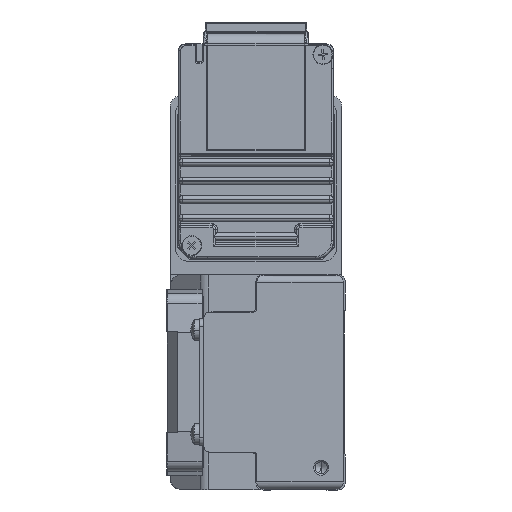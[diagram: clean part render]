
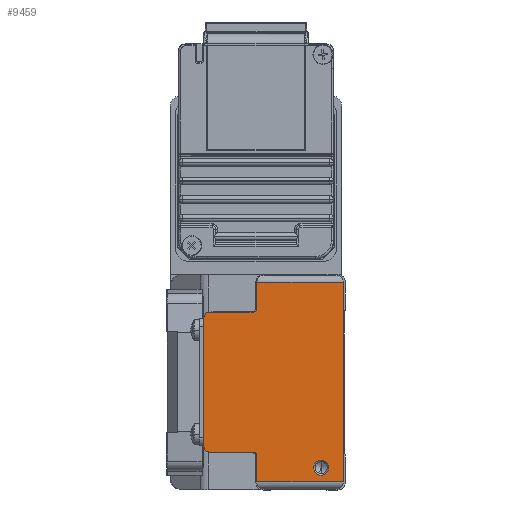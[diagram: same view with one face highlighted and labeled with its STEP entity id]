
A CAD part, left-side view. The second image highlights one B-rep face of the part: STEP entity #9459.
In plain terms, the highlighted planar face has unit normal (-1, 0, 0) as drawn and (0, 0, 1) by its records, which use the part's own axes.
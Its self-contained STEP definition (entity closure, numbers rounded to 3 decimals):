
#156 = DIRECTION ( 'NONE',  ( -1., 0., 0. ) ) ;
#285 = VECTOR ( 'NONE', #5982, 1000. ) ;
#315 = VECTOR ( 'NONE', #39219, 1000. ) ;
#721 = ORIENTED_EDGE ( 'NONE', *, *, #29878, .T. ) ;
#989 = CARTESIAN_POINT ( 'NONE',  ( -26.8, 21.8, 470. ) ) ;
#1067 = ORIENTED_EDGE ( 'NONE', *, *, #10643, .F. ) ;
#1120 = EDGE_CURVE ( 'NONE', #24827, #41792, #19138, .T. ) ;
#1781 = CARTESIAN_POINT ( 'NONE',  ( -19.8, 23.8, 470. ) ) ;
#2764 = VERTEX_POINT ( 'NONE', #3530 ) ;
#3117 = CARTESIAN_POINT ( 'NONE',  ( -18.8, 36.5, 470. ) ) ;
#3207 = CARTESIAN_POINT ( 'NONE',  ( 19.8, 23.8, 470. ) ) ;
#3292 = VERTEX_POINT ( 'NONE', #29070 ) ;
#3530 = CARTESIAN_POINT ( 'NONE',  ( -26.8, 0.5, 470. ) ) ;
#3841 = EDGE_CURVE ( 'NONE', #23293, #32912, #22736, .T. ) ;
#4641 = VECTOR ( 'NONE', #18654, 1000. ) ;
#5545 = AXIS2_PLACEMENT_3D ( 'NONE', #42350, #31761, #18430 ) ;
#5982 = DIRECTION ( 'NONE',  ( 0., -1., 0. ) ) ;
#8085 = EDGE_CURVE ( 'NONE', #28692, #19407, #33606, .T. ) ;
#9459 = ADVANCED_FACE ( 'NONE', ( #15582, #39491 ), #12164, .T. ) ;
#9664 = DIRECTION ( 'NONE',  ( -1., 0., 0. ) ) ;
#9724 = EDGE_LOOP ( 'NONE', ( #24250, #22163 ) ) ;
#10262 = AXIS2_PLACEMENT_3D ( 'NONE', #19976, #13116, #9664 ) ;
#10383 = CIRCLE ( 'NONE', #36027, 2. ) ;
#10422 = DIRECTION ( 'NONE',  ( 0., 0., 1. ) ) ;
#10458 = EDGE_CURVE ( 'NONE', #19407, #26592, #22868, .T. ) ;
#10643 = EDGE_CURVE ( 'NONE', #36455, #18519, #30904, .T. ) ;
#11117 = EDGE_CURVE ( 'NONE', #26592, #3292, #19346, .T. ) ;
#11144 = AXIS2_PLACEMENT_3D ( 'NONE', #22739, #43860, #44543 ) ;
#11635 = DIRECTION ( 'NONE',  ( 1., 0., 0. ) ) ;
#12164 = PLANE ( 'NONE',  #31389 ) ;
#13116 = DIRECTION ( 'NONE',  ( 0., 0., -1. ) ) ;
#13716 = LINE ( 'NONE', #34871, #285 ) ;
#13864 = CARTESIAN_POINT ( 'NONE',  ( 17.3, 36.5, 470. ) ) ;
#14072 = DIRECTION ( 'NONE',  ( 1., 0., 0. ) ) ;
#14160 = EDGE_CURVE ( 'NONE', #24827, #3292, #45097, .T. ) ;
#14913 = DIRECTION ( 'NONE',  ( 1., 0., 0. ) ) ;
#15052 = LINE ( 'NONE', #25821, #23329 ) ;
#15399 = DIRECTION ( 'NONE',  ( 1., 0., 0. ) ) ;
#15582 = FACE_BOUND ( 'NONE', #9724, .T. ) ;
#15610 = DIRECTION ( 'NONE',  ( 0., 0., 1. ) ) ;
#15631 = ORIENTED_EDGE ( 'NONE', *, *, #8085, .T. ) ;
#17727 = CARTESIAN_POINT ( 'NONE',  ( 18.8, 24.8, 470. ) ) ;
#18317 = DIRECTION ( 'NONE',  ( 0., 0., 1. ) ) ;
#18430 = DIRECTION ( 'NONE',  ( 1., 0., 0. ) ) ;
#18519 = VERTEX_POINT ( 'NONE', #3207 ) ;
#18654 = DIRECTION ( 'NONE',  ( 0., -1., 0. ) ) ;
#19138 = LINE ( 'NONE', #1781, #42148 ) ;
#19181 = AXIS2_PLACEMENT_3D ( 'NONE', #43213, #15610, #15399 ) ;
#19346 = LINE ( 'NONE', #43029, #4641 ) ;
#19388 = CARTESIAN_POINT ( 'NONE',  ( 18.8, 24.8, 470. ) ) ;
#19407 = VERTEX_POINT ( 'NONE', #22154 ) ;
#19579 = EDGE_CURVE ( 'NONE', #32912, #23293, #10383, .T. ) ;
#19774 = EDGE_CURVE ( 'NONE', #36455, #33574, #42335, .T. ) ;
#19976 = CARTESIAN_POINT ( 'NONE',  ( -23., 6.5, 470. ) ) ;
#20121 = EDGE_CURVE ( 'NONE', #2764, #21358, #15052, .T. ) ;
#20933 = CARTESIAN_POINT ( 'NONE',  ( 26.8, 23.8, 470. ) ) ;
#21358 = VERTEX_POINT ( 'NONE', #24146 ) ;
#22154 = CARTESIAN_POINT ( 'NONE',  ( -17.3, 38., 470. ) ) ;
#22163 = ORIENTED_EDGE ( 'NONE', *, *, #19579, .T. ) ;
#22736 = CIRCLE ( 'NONE', #10262, 2. ) ;
#22739 = CARTESIAN_POINT ( 'NONE',  ( 19.8, 24.8, 470. ) ) ;
#22867 = CARTESIAN_POINT ( 'NONE',  ( 17.3, 38., 470. ) ) ;
#22868 = CIRCLE ( 'NONE', #19181, 1.5 ) ;
#23293 = VERTEX_POINT ( 'NONE', #39385 ) ;
#23329 = VECTOR ( 'NONE', #11635, 1000. ) ;
#24146 = CARTESIAN_POINT ( 'NONE',  ( 26.8, 0.5, 470. ) ) ;
#24184 = CARTESIAN_POINT ( 'NONE',  ( -23., 6.5, 470. ) ) ;
#24250 = ORIENTED_EDGE ( 'NONE', *, *, #3841, .T. ) ;
#24274 = VECTOR ( 'NONE', #24841, 1000. ) ;
#24827 = VERTEX_POINT ( 'NONE', #34245 ) ;
#24841 = DIRECTION ( 'NONE',  ( 0., 1., 0. ) ) ;
#25821 = CARTESIAN_POINT ( 'NONE',  ( -26.8, 0.5, 470. ) ) ;
#26426 = EDGE_LOOP ( 'NONE', ( #28777, #26734, #33821, #31012, #39719, #38106, #40075, #1067, #27949, #721, #15631, #31009 ) ) ;
#26592 = VERTEX_POINT ( 'NONE', #3117 ) ;
#26734 = ORIENTED_EDGE ( 'NONE', *, *, #14160, .F. ) ;
#27093 = VECTOR ( 'NONE', #28357, 1000. ) ;
#27340 = CARTESIAN_POINT ( 'NONE',  ( 26.8, 23.8, 470. ) ) ;
#27802 = LINE ( 'NONE', #27340, #315 ) ;
#27949 = ORIENTED_EDGE ( 'NONE', *, *, #19774, .T. ) ;
#28069 = DIRECTION ( 'NONE',  ( 0., 0., -1. ) ) ;
#28357 = DIRECTION ( 'NONE',  ( 0., -1., 0. ) ) ;
#28692 = VERTEX_POINT ( 'NONE', #22867 ) ;
#28777 = ORIENTED_EDGE ( 'NONE', *, *, #11117, .T. ) ;
#29066 = VECTOR ( 'NONE', #156, 1000. ) ;
#29070 = CARTESIAN_POINT ( 'NONE',  ( -18.8, 24.8, 470. ) ) ;
#29310 = EDGE_CURVE ( 'NONE', #41792, #2764, #31828, .T. ) ;
#29878 = EDGE_CURVE ( 'NONE', #33574, #28692, #38177, .T. ) ;
#30288 = CARTESIAN_POINT ( 'NONE',  ( 18.8, 36.5, 470. ) ) ;
#30904 = CIRCLE ( 'NONE', #11144, 1. ) ;
#31009 = ORIENTED_EDGE ( 'NONE', *, *, #10458, .T. ) ;
#31012 = ORIENTED_EDGE ( 'NONE', *, *, #29310, .T. ) ;
#31142 = CARTESIAN_POINT ( 'NONE',  ( -26.8, 24., 470. ) ) ;
#31273 = DIRECTION ( 'NONE',  ( -1., 0., 0. ) ) ;
#31389 = AXIS2_PLACEMENT_3D ( 'NONE', #989, #18317, #14913 ) ;
#31761 = DIRECTION ( 'NONE',  ( 0., 0., 1. ) ) ;
#31828 = LINE ( 'NONE', #31142, #27093 ) ;
#32101 = EDGE_CURVE ( 'NONE', #32615, #21358, #13716, .T. ) ;
#32296 = CARTESIAN_POINT ( 'NONE',  ( -26.8, 23.8, 470. ) ) ;
#32615 = VERTEX_POINT ( 'NONE', #20933 ) ;
#32912 = VERTEX_POINT ( 'NONE', #36242 ) ;
#33574 = VERTEX_POINT ( 'NONE', #30288 ) ;
#33606 = LINE ( 'NONE', #42766, #29066 ) ;
#33821 = ORIENTED_EDGE ( 'NONE', *, *, #1120, .T. ) ;
#34245 = CARTESIAN_POINT ( 'NONE',  ( -19.8, 23.8, 470. ) ) ;
#34871 = CARTESIAN_POINT ( 'NONE',  ( 26.8, 24., 470. ) ) ;
#36027 = AXIS2_PLACEMENT_3D ( 'NONE', #24184, #28069, #31273 ) ;
#36242 = CARTESIAN_POINT ( 'NONE',  ( -21., 6.5, 470. ) ) ;
#36353 = DIRECTION ( 'NONE',  ( -1., 0., 0. ) ) ;
#36455 = VERTEX_POINT ( 'NONE', #19388 ) ;
#38106 = ORIENTED_EDGE ( 'NONE', *, *, #32101, .F. ) ;
#38177 = CIRCLE ( 'NONE', #41855, 1.5 ) ;
#39219 = DIRECTION ( 'NONE',  ( -1., 0., 0. ) ) ;
#39385 = CARTESIAN_POINT ( 'NONE',  ( -25., 6.5, 470. ) ) ;
#39491 = FACE_OUTER_BOUND ( 'NONE', #26426, .T. ) ;
#39719 = ORIENTED_EDGE ( 'NONE', *, *, #20121, .T. ) ;
#40075 = ORIENTED_EDGE ( 'NONE', *, *, #44254, .T. ) ;
#41792 = VERTEX_POINT ( 'NONE', #32296 ) ;
#41855 = AXIS2_PLACEMENT_3D ( 'NONE', #13864, #10422, #14072 ) ;
#42148 = VECTOR ( 'NONE', #36353, 1000. ) ;
#42335 = LINE ( 'NONE', #17727, #24274 ) ;
#42350 = CARTESIAN_POINT ( 'NONE',  ( -19.8, 24.8, 470. ) ) ;
#42766 = CARTESIAN_POINT ( 'NONE',  ( 17.3, 38., 470. ) ) ;
#43029 = CARTESIAN_POINT ( 'NONE',  ( -18.8, 36.5, 470. ) ) ;
#43213 = CARTESIAN_POINT ( 'NONE',  ( -17.3, 36.5, 470. ) ) ;
#43860 = DIRECTION ( 'NONE',  ( 0., 0., 1. ) ) ;
#44254 = EDGE_CURVE ( 'NONE', #32615, #18519, #27802, .T. ) ;
#44543 = DIRECTION ( 'NONE',  ( 1., 0., 0. ) ) ;
#45097 = CIRCLE ( 'NONE', #5545, 1. ) ;
